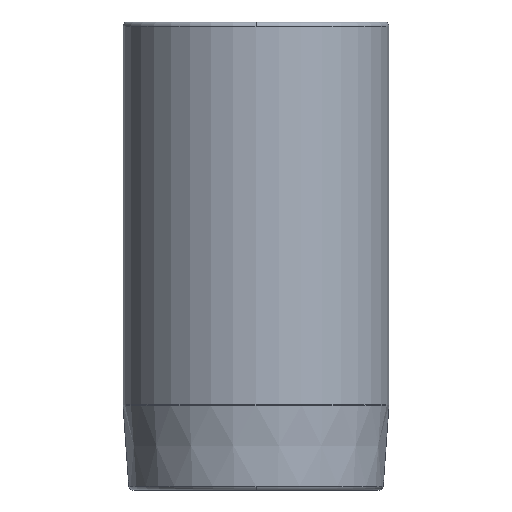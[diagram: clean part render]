
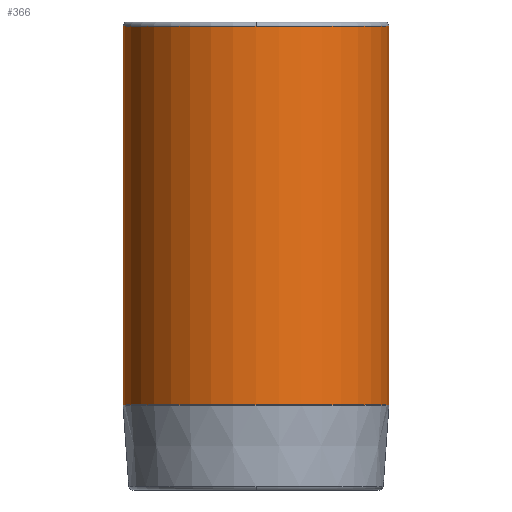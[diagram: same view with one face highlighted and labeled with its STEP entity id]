
A CAD part, front view. The second image highlights one B-rep face of the part: STEP entity #366.
In plain terms, the highlighted cylindrical face has radius 15.625 mm (diameter 31.25 mm), a partial arc.
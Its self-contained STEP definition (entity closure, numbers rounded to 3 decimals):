
#271=CARTESIAN_POINT('',(0.0,-15.625,27.5));
#272=VERTEX_POINT('',#271);
#298=CARTESIAN_POINT('',(-15.625,0.,27.5));
#299=VERTEX_POINT('',#298);
#307=CARTESIAN_POINT('',(0.0,0.,27.5));
#308=DIRECTION('',(0.0,0.0,1.0));
#309=DIRECTION('',(1.0,0.0,0.0));
#310=AXIS2_PLACEMENT_3D('',#307,#308,#309);
#311=CIRCLE('',#310,15.625);
#312=EDGE_CURVE('',#299,#272,#311,.T.);
#317=CARTESIAN_POINT('',(0.0,0.,5.267));
#318=DIRECTION('',(0.0,0.,1.0));
#319=DIRECTION('',(1.0,0.0,0.0));
#320=AXIS2_PLACEMENT_3D('',#317,#318,#319);
#321=CYLINDRICAL_SURFACE('',#320,15.625);
#322=CARTESIAN_POINT('',(15.625,0.,27.5));
#323=VERTEX_POINT('',#322);
#324=CARTESIAN_POINT('',(15.625,0.,-16.965));
#325=VERTEX_POINT('',#324);
#326=CARTESIAN_POINT('',(15.625,0.,27.5));
#327=DIRECTION('',(0.0,0.0,-1.0));
#328=VECTOR('',#327,44.465);
#329=LINE('',#326,#328);
#330=EDGE_CURVE('',#323,#325,#329,.T.);
#331=ORIENTED_EDGE('',*,*,#330,.F.);
#332=CARTESIAN_POINT('',(0.0,0.,27.5));
#333=DIRECTION('',(0.0,0.0,1.0));
#334=DIRECTION('',(1.0,0.0,0.0));
#335=AXIS2_PLACEMENT_3D('',#332,#333,#334);
#336=CIRCLE('',#335,15.625);
#337=EDGE_CURVE('',#272,#323,#336,.T.);
#338=ORIENTED_EDGE('',*,*,#337,.F.);
#339=ORIENTED_EDGE('',*,*,#312,.F.);
#340=CARTESIAN_POINT('',(-15.625,0.,-16.965));
#341=VERTEX_POINT('',#340);
#342=CARTESIAN_POINT('',(-15.625,0.,27.5));
#343=DIRECTION('',(0.0,0.0,-1.0));
#344=VECTOR('',#343,44.465);
#345=LINE('',#342,#344);
#346=EDGE_CURVE('',#299,#341,#345,.T.);
#347=ORIENTED_EDGE('',*,*,#346,.T.);
#348=CARTESIAN_POINT('',(0.0,-15.625,-16.965));
#349=VERTEX_POINT('',#348);
#350=CARTESIAN_POINT('',(0.0,0.,-16.965));
#351=DIRECTION('',(0.0,0.0,1.0));
#352=DIRECTION('',(1.0,0.0,0.0));
#353=AXIS2_PLACEMENT_3D('',#350,#351,#352);
#354=CIRCLE('',#353,15.625);
#355=EDGE_CURVE('',#341,#349,#354,.T.);
#356=ORIENTED_EDGE('',*,*,#355,.T.);
#357=CARTESIAN_POINT('',(0.0,0.,-16.965));
#358=DIRECTION('',(0.0,0.0,1.0));
#359=DIRECTION('',(1.0,0.0,0.0));
#360=AXIS2_PLACEMENT_3D('',#357,#358,#359);
#361=CIRCLE('',#360,15.625);
#362=EDGE_CURVE('',#349,#325,#361,.T.);
#363=ORIENTED_EDGE('',*,*,#362,.T.);
#364=EDGE_LOOP('',(#331,#338,#339,#347,#356,#363));
#365=FACE_OUTER_BOUND('',#364,.T.);
#366=ADVANCED_FACE('',(#365),#321,.T.);
